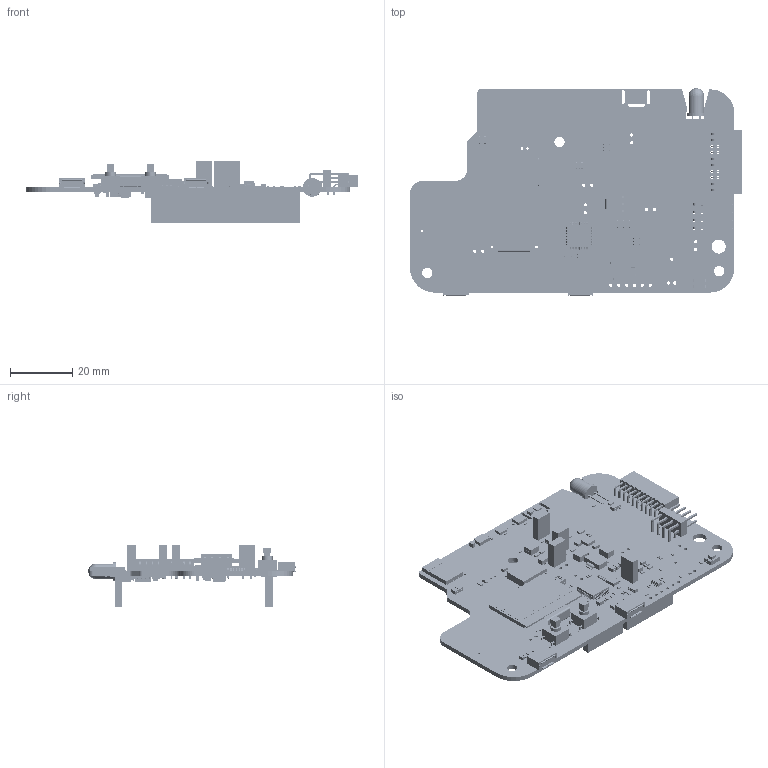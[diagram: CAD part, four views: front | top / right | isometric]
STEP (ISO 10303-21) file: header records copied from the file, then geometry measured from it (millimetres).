
FILE_DESCRIPTION(('Open CASCADE Model'),'2;1');
FILE_NAME('Open CASCADE Shape Model','2023-06-28T14:16:10',('Author'),( 'Open CASCADE'),'Open CASCADE STEP processor 7.5','Open CASCADE 7.5' ,'Unknown');
FILE_SCHEMA(('AUTOMOTIVE_DESIGN { 1 0 10303 214 1 1 1 1 }'));
Length unit declared in the file: millimetre
Products named in the file (444): PCB; Board; Open CASCADE STEP translator 7.5 2.1.1; C45; 6944340096; Extruded; 6944339936; 6944339776; JP5; TSW-102-07-G-S; _TSW-102-07-G-S_body; _T-1S6-07-TSW-1-07-2-S; 6945320960; JP4; C56; Capacitors_0201_H0P3; 6944644656; C55; C54; SB11; R0603; 6945317200; SB6; TS1; 6945326400; LDIR1; LED-D5Y; CN5; SQT-110-01-F-D-RA; _SQT-110-01-F-D-RA_socket; _SQT-110-01-F-D-RA_pins; 6945326480; JP3; 6944637376; R58; R0402; 6944645536; R57; 6944648976; R56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
Assembly tree (822 placements, depth 4):
  PCB
    Board
      Open CASCADE STEP translator 7.5 2.1.1
    C45
      6944340096
        Extruded
      6944339936
        Extruded
      6944339776
        Extruded
    JP5
      TSW-102-07-G-S
        _TSW-102-07-G-S_body
        _T-1S6-07-TSW-1-07-2-S
      6945320960
        Extruded
    JP4
      TSW-102-07-G-S
        _TSW-102-07-G-S_body
        _T-1S6-07-TSW-1-07-2-S
      6945320960
        Extruded
    C56
      Capacitors_0201_H0P3
      6944644656
        Extruded
    C55
      Capacitors_0201_H0P3
      6944644656
        Extruded
    C54
      Capacitors_0201_H0P3
      6944644656
        Extruded
    SB11
      R0603
      6945317200
        Extruded
    SB6
      R0603
      6945317200
        Extruded
    TS1
      6945326400
        Extruded
    LDIR1
      LED-D5Y
    CN5
      SQT-110-01-F-D-RA
        _SQT-110-01-F-D-RA_socket
        _SQT-110-01-F-D-RA_pins
      6945326480
        Extruded
    JP3
      TSW-102-07-G-S
        _TSW-102-07-G-S_body
        _T-1S6-07-TSW-1-07-2-S
      6944637376
        Extruded
    R58
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Bounding box: 106.3 x 66.47 x 19.7 mm (x, y, z)
Volume: 17674.4 mm3; surface area: 31961.8 mm2
Topology: 741 solids, 754 shells, 27547 faces, 65467 edges, 37927 vertices
Faces by surface type: plane 11951, cylinder 7741, bspline 5008, sphere 2266, torus 394, revolution 168, cone 19
Full cylindrical faces by diameter (mm): 0.2 x1, 0.3 x3, 0.4 x2, 0.5 x1, 0.6 x1, 0.7 x1, 0.75 x2, 0.8 x5, 0.9 x24, 1 x24, 1.05 x10, 1.1 x3, 3.3 x3, 3.4 x2, 4.5 x1
Entity records: 245622 total; most frequent: CARTESIAN_POINT 59009, ORIENTED_EDGE 31129, DIRECTION 29690, EDGE_CURVE 15598, LINE 12676, VECTOR 12676, VERTEX_POINT 10029, AXIS2_PLACEMENT_3D 8503
